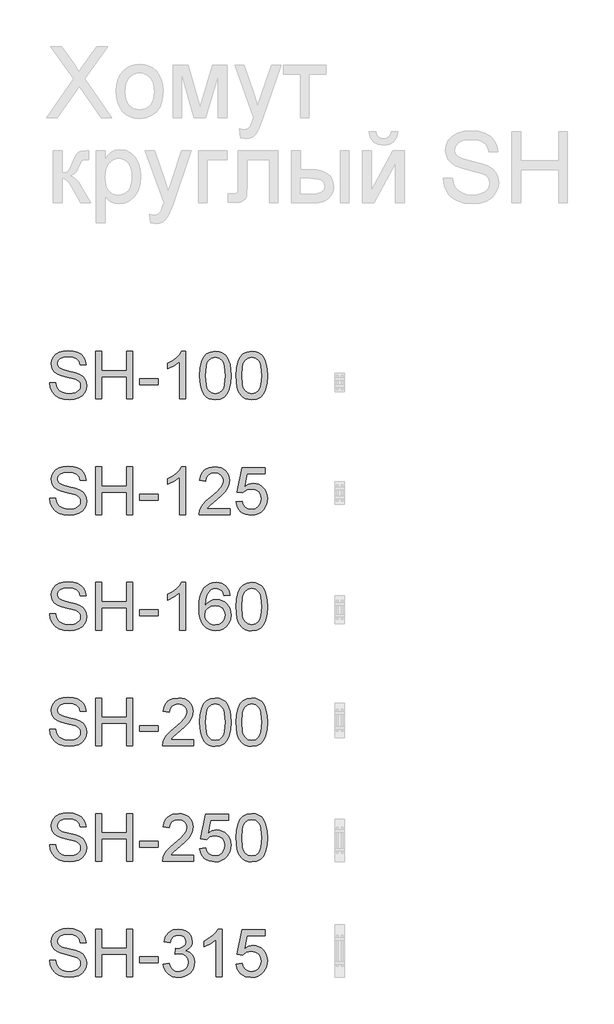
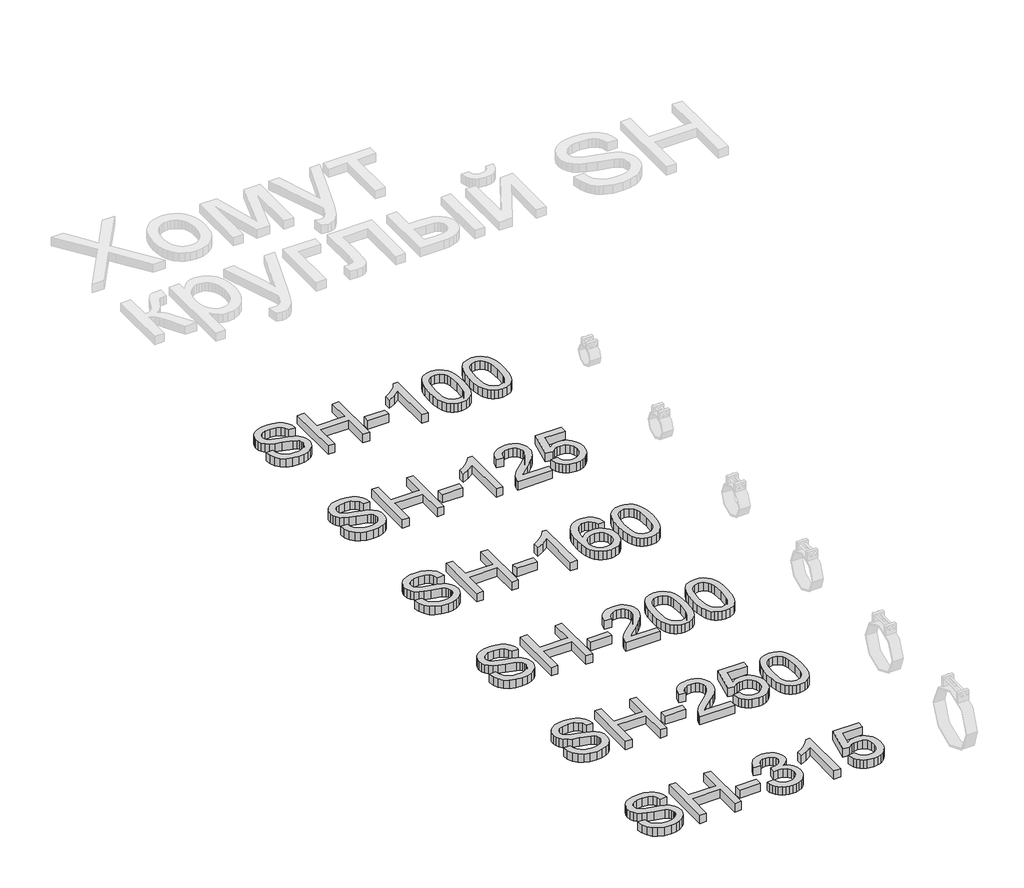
# One storey, part 4 of 31: 1 proxy.
"""IFC4 building model written with IfcOpenShell, lengths in millimetres."""

from ifc_helpers import new_model, si_unit, origin, origin_with_axes, place, context, project, spatial, polyline, outline, extrude, element, save

model = new_model("IFC4")

# Units and contexts
model_context = context("Model", 3, world=origin())
ifc_project = project(units=[si_unit("LENGTHUNIT", "METRE", prefix="MILLI")], contexts=[model_context])

# Site, building, storey
site = spatial("IfcSite", under=ifc_project)
building = spatial("IfcBuilding", under=site)
storey = spatial("IfcBuildingStorey", under=building, Name="Этаж 01", Elevation=0.0)

# Proxy
placement = place(None, origin())
element("IfcBuildingElementProxy", 1, Name="300 мм Arial", ObjectType="300 мм Arial", at=placement, inside=storey, context=model_context, shape_type="SweptSolid", body=[
    extrude(outline(polyline([(10389.7433415, -45061.6957444), (10427.4144578, -45061.6957444), (10431.7370713, -45082.6006388), (10439.5545637, -45099.4036489), (10451.7498518, -45112.7393712), (10469.2058525, -45123.2424022), (10490.5430082, -45130.0574161), (10514.3817615, -45132.3290875), (10535.3694293, -45130.6092391), (10553.745135, -45125.4496941), (10568.6351587, -45117.2827139), (10579.1657809, -45106.5405596), (10585.4289718, -45094.2073157), (10587.5167022, -45081.2670665), (10585.9532037, -45068.6579111), (10581.2627082, -45057.759407), (10571.7345646, -45048.4611896), (10555.6581214, -45040.6528943), (10500.8069159, -45026.2687082), (10464.8004656, -45016.7497616), (10441.7618557, -45007.6906675), (10423.009071, -44995.0171328), (10409.7193339, -44979.6580595), (10401.8006739, -44961.9445414), (10399.1611206, -44942.2076723), (10402.4260733, -44920.1439497), (10412.2209314, -44899.5701491), (10428.2881776, -44882.1325425), (10450.3702943, -44869.4774019), (10476.8761921, -44861.7794712), (10506.2147812, -44859.2134942), (10537.9997856, -44861.8990328), (10565.8116644, -44869.9556485), (10588.6571363, -44883.2177944), (10605.5429199, -44901.5199237), (10616.2298919, -44923.7216021), (10620.4789289, -44948.6823955), (10582.8078126, -44948.6823955), (10575.8916311, -44926.2048056), (10561.4706569, -44909.9812096), (10538.9378847, -44900.1587603), (10507.6863092, -44896.8846105), (10475.6989697, -44900.1219721), (10453.7548087, -44909.8340568), (10441.0628799, -44924.1262723), (10436.8322369, -44941.1040264), (10439.8304752, -44955.5801829), (10448.82519, -44967.223648), (10470.0887693, -44977.6347085), (10510.3350596, -44988.2664981), (10551.8689368, -44998.3648589), (10576.9952771, -45007.1756327), (10598.4703886, -45020.8424488), (10613.4523828, -45037.7098383), (10622.2539595, -45057.5938601), (10625.1878185, -45080.3105733), (10621.8125012, -45103.5331243), (10611.6865492, -45125.3761177), (10595.2238299, -45144.1748877), (10572.8382105, -45158.2647681), (10545.9184455, -45167.0663449), (10515.8532895, -45170.0002038), (10478.9455283, -45166.8364186), (10448.5676726, -45157.3450631), (10424.3702343, -45141.4893491), (10406.0037257, -45119.2324884), (10394.2131078, -45092.1195854), (10389.7433415, -45061.6957444)])), origin_with_axes(), (0.0, 0.0, 1.0), 50.0),
    extrude(outline(polyline([(10681.6944929, -45165.2913142), (10681.6944929, -44863.9223838), (10719.3656092, -44863.9223838), (10719.3656092, -44986.3535118), (10879.4678535, -44986.3535118), (10879.4678535, -44863.9223838), (10917.1389698, -44863.9223838), (10917.1389698, -45165.2913142), (10879.4678535, -45165.2913142), (10879.4678535, -45024.0246281), (10719.3656092, -45024.0246281), (10719.3656092, -45165.2913142), (10681.6944929, -45165.2913142)])), origin_with_axes(), (0.0, 0.0, 1.0), 50.0),
    extrude(outline(polyline([(10959.5189757, -45075.822413), (10959.5189757, -45038.1512967), (11077.2412141, -45038.1512967), (11077.2412141, -45075.822413), (10959.5189757, -45075.822413)])), origin_with_axes(), (0.0, 0.0, 1.0), 50.0),
    extrude(outline(polyline([(11251.470127, -45165.2913142), (11213.7990107, -45165.2913142), (11213.7990107, -44930.4354485), (11178.1144572, -44955.8560944), (11138.4567781, -44974.8755935), (11138.4567781, -44939.2646164), (11168.0436876, -44923.1697791), (11193.6758656, -44904.0215212), (11213.8817842, -44883.6592528), (11227.1899154, -44863.9223838), (11251.470127, -44863.9223838), (11251.470127, -45165.2913142)])), origin_with_axes(), (0.0, 0.0, 1.0), 50.0),
    extrude(outline(polyline([(11340.9390283, -45017.0348702), (11343.7073403, -44968.7963435), (11352.0122763, -44930.3250839), (11365.7710629, -44901.03248), (11384.9009267, -44880.3299208), (11409.5398233, -44868.024268), (11439.8257086, -44863.9223838), (11463.0390625, -44866.3504049), (11483.8243952, -44873.6344684), (11501.2068195, -44885.4894657), (11514.211448, -44901.6302883), (11524.0338973, -44921.9189803), (11531.8697838, -44946.2175861), (11537.0017376, -44977.0736884), (11538.7123889, -45017.0348702), (11535.971668, -45064.9974853), (11527.7495054, -45103.3767744), (11514.0734923, -45132.6969695), (11494.9712197, -45153.4823022), (11470.2771407, -45165.8707284), (11439.8257086, -45170.0002038), (11419.077164, -45168.206779), (11400.6830643, -45162.8265049), (11384.6434093, -45153.8593812), (11370.9581991, -45141.3054081), (11357.8248119, -45118.6116876), (11348.443821, -45090.3353577), (11342.8152264, -45056.4764186), (11340.9390283, -45017.0348702)]), holes=[polyline([(11378.6101446, -45016.9612938), (11383.0247285, -45076.2178861), (11388.5429584, -45096.4858848), (11396.2684803, -45110.5136851), (11415.9869553, -45126.8752369), (11439.8257086, -45132.3290875), (11463.6644619, -45126.8568428), (11483.3829368, -45110.4401087), (11491.1084587, -45096.3893158), (11496.6266886, -45076.1259156), (11501.0412726, -45016.9612938), (11496.7738414, -44959.0382736), (11491.4395525, -44938.8369536), (11483.971548, -44924.4757602), (11464.2898613, -44907.3140651), (11439.3842502, -44901.5935001), (11415.8030143, -44906.6334834), (11396.8570915, -44921.7534334), (11388.8740522, -44937.3884182), (11383.1718813, -44958.4680565), (11378.6101446, -45016.9612938)])]), origin_with_axes(), (0.0, 0.0, 1.0), 50.0),
    extrude(outline(polyline([(11571.6746156, -45017.0348702), (11574.4429277, -44968.7963435), (11582.7478637, -44930.3250839), (11596.5066503, -44901.03248), (11615.6365141, -44880.3299208), (11640.2754107, -44868.024268), (11670.561296, -44863.9223838), (11693.7746498, -44866.3504049), (11714.5599826, -44873.6344684), (11731.9424068, -44885.4894657), (11744.9470354, -44901.6302883), (11754.7694846, -44921.9189803), (11762.6053711, -44946.2175861), (11767.737325, -44977.0736884), (11769.4479763, -45017.0348702), (11766.7072554, -45064.9974853), (11758.4850928, -45103.3767744), (11744.8090796, -45132.6969695), (11725.706807, -45153.4823022), (11701.0127281, -45165.8707284), (11670.561296, -45170.0002038), (11649.8127514, -45168.206779), (11631.4186517, -45162.8265049), (11615.3789967, -45153.8593812), (11601.6937865, -45141.3054081), (11588.5603992, -45118.6116876), (11579.1794083, -45090.3353577), (11573.5508138, -45056.4764186), (11571.6746156, -45017.0348702)]), holes=[polyline([(11609.345732, -45016.9612938), (11613.7603159, -45076.2178861), (11619.2785458, -45096.4858848), (11627.0040677, -45110.5136851), (11646.7225427, -45126.8752369), (11670.561296, -45132.3290875), (11694.4000492, -45126.8568428), (11714.1185242, -45110.4401087), (11721.8440461, -45096.3893158), (11727.362276, -45076.1259156), (11731.7768599, -45016.9612938), (11727.5094288, -44959.0382736), (11722.1751399, -44938.8369536), (11714.7071354, -44924.4757602), (11695.0254486, -44907.3140651), (11670.1198376, -44901.5935001), (11646.5386017, -44906.6334834), (11627.5926789, -44921.7534334), (11619.6096396, -44937.3884182), (11613.9074687, -44958.4680565), (11609.345732, -45016.9612938)])]), origin_with_axes(), (0.0, 0.0, 1.0), 50.0),
    extrude(outline(polyline([(10389.7433415, -45793.5446515), (10427.4144578, -45793.5446515), (10431.7370713, -45814.4495458), (10439.5545637, -45831.252556), (10451.7498518, -45844.5882783), (10469.2058525, -45855.0913092), (10490.5430082, -45861.9063232), (10514.3817615, -45864.1779945), (10535.3694293, -45862.4581462), (10553.745135, -45857.2986012), (10568.6351587, -45849.1316209), (10579.1657809, -45838.3894667), (10585.4289718, -45826.0562228), (10587.5167022, -45813.1159736), (10585.9532037, -45800.5068182), (10581.2627082, -45789.6083141), (10571.7345646, -45780.3100967), (10555.6581214, -45772.5018013), (10500.8069159, -45758.1176153), (10464.8004656, -45748.5986687), (10441.7618557, -45739.5395746), (10423.009071, -45726.8660398), (10409.7193339, -45711.5069665), (10401.8006739, -45693.7934485), (10399.1611206, -45674.0565794), (10402.4260733, -45651.9928568), (10412.2209314, -45631.4190562), (10428.2881776, -45613.9814496), (10450.3702943, -45601.326309), (10476.8761921, -45593.6283782), (10506.2147812, -45591.0624013), (10537.9997856, -45593.7479399), (10565.8116644, -45601.8045556), (10588.6571363, -45615.0667015), (10605.5429199, -45633.3688308), (10616.2298919, -45655.5705092), (10620.4789289, -45680.5313025), (10582.8078126, -45680.5313025), (10575.8916311, -45658.0537126), (10561.4706569, -45641.8301166), (10538.9378847, -45632.0076674), (10507.6863092, -45628.7335176), (10475.6989697, -45631.9708792), (10453.7548087, -45641.6829638), (10441.0628799, -45655.9751794), (10436.8322369, -45672.9529334), (10439.8304752, -45687.4290899), (10448.82519, -45699.0725551), (10470.0887693, -45709.4836156), (10510.3350596, -45720.1154052), (10551.8689368, -45730.213766), (10576.9952771, -45739.0245398), (10598.4703886, -45752.6913559), (10613.4523828, -45769.5587454), (10622.2539595, -45789.4427672), (10625.1878185, -45812.1594804), (10621.8125012, -45835.3820314), (10611.6865492, -45857.2250248), (10595.2238299, -45876.0237948), (10572.8382105, -45890.1136752), (10545.9184455, -45898.9152519), (10515.8532895, -45901.8491108), (10478.9455283, -45898.6853257), (10448.5676726, -45889.1939702), (10424.3702343, -45873.3382562), (10406.0037257, -45851.0813955), (10394.2131078, -45823.9684925), (10389.7433415, -45793.5446515)])), origin_with_axes(), (0.0, 0.0, 1.0), 50.0),
    extrude(outline(polyline([(10681.6944929, -45897.1402213), (10681.6944929, -45595.7712908), (10719.3656092, -45595.7712908), (10719.3656092, -45718.2024188), (10879.4678535, -45718.2024188), (10879.4678535, -45595.7712908), (10917.1389698, -45595.7712908), (10917.1389698, -45897.1402213), (10879.4678535, -45897.1402213), (10879.4678535, -45755.8735351), (10719.3656092, -45755.8735351), (10719.3656092, -45897.1402213), (10681.6944929, -45897.1402213)])), origin_with_axes(), (0.0, 0.0, 1.0), 50.0),
    extrude(outline(polyline([(10959.5189757, -45807.6713201), (10959.5189757, -45770.0002038), (11077.2412141, -45770.0002038), (11077.2412141, -45807.6713201), (10959.5189757, -45807.6713201)])), origin_with_axes(), (0.0, 0.0, 1.0), 50.0),
    extrude(outline(polyline([(11251.470127, -45897.1402213), (11213.7990107, -45897.1402213), (11213.7990107, -45662.2843556), (11178.1144572, -45687.7050014), (11138.4567781, -45706.7245006), (11138.4567781, -45671.1135235), (11168.0436876, -45655.0186862), (11193.6758656, -45635.8704283), (11213.8817842, -45615.5081599), (11227.1899154, -45595.7712908), (11251.470127, -45595.7712908), (11251.470127, -45897.1402213)])), origin_with_axes(), (0.0, 0.0, 1.0), 50.0),
    extrude(outline(polyline([(11534.0034993, -45859.469105), (11534.0034993, -45897.1402213), (11336.2301387, -45897.1402213), (11340.2768407, -45871.1677524), (11349.5658611, -45850.8698634), (11363.1591008, -45831.1789796), (11382.8223934, -45810.5683908), (11410.3215726, -45787.5113867), (11450.972533, -45751.4037689), (11475.3631093, -45724.7507184), (11487.5583974, -45703.119257), (11491.6234935, -45682.0764069), (11487.7883237, -45663.2132576), (11476.2828143, -45647.5322876), (11458.5968874, -45636.9648773), (11436.220465, -45633.4424072), (11412.7220026, -45636.8821038), (11394.4658586, -45647.2011938), (11382.6844377, -45663.5903367), (11378.6101446, -45685.2401921), (11340.9390283, -45680.5313025), (11350.0716988, -45644.0925909), (11358.6180574, -45629.5566536), (11369.8177649, -45617.4763286), (11383.4133039, -45607.9803746), (11399.147157, -45601.1975503), (11437.0298054, -45595.7712908), (11457.2196292, -45597.279607), (11475.1883654, -45601.8045556), (11490.936014, -45609.3461365), (11504.4625751, -45619.9043497), (11515.3265903, -45632.6974461), (11523.0866011, -45646.9436764), (11527.7426076, -45662.6430405), (11529.2946098, -45679.7955385), (11527.6207467, -45697.8125593), (11522.5991575, -45715.5168803), (11513.6872162, -45733.5247039), (11500.3422968, -45752.4522326), (11479.0695204, -45775.0493841), (11446.3740081, -45804.0660765), (11403.0375091, -45840.302453), (11386.0413609, -45859.469105), (11534.0034993, -45859.469105)])), origin_with_axes(), (0.0, 0.0, 1.0), 50.0),
    extrude(outline(polyline([(11571.6746156, -45817.0890991), (11609.345732, -45812.3802096), (11616.2619135, -45834.9957553), (11628.3284429, -45851.1917601), (11645.490138, -45860.9314359), (11667.6918164, -45864.1779945), (11694.6943548, -45859.662243), (11714.9278646, -45846.1149886), (11727.5646111, -45825.0997296), (11731.7768599, -45798.1799646), (11727.8313255, -45772.8328951), (11715.9947224, -45753.445514), (11696.1750799, -45741.1398612), (11668.2804276, -45737.037977), (11650.0058895, -45738.6750519), (11635.2078362, -45743.5862765), (11614.0546215, -45760.5824247), (11576.3835052, -45755.8735351), (11609.345732, -45600.4801804), (11755.3213076, -45600.4801804), (11755.3213076, -45638.1512967), (11639.8063612, -45638.1512967), (11623.6931298, -45721.1454748), (11650.6036977, -45704.8115142), (11678.8018526, -45699.3668607), (11697.1476679, -45701.0545193), (11713.9989625, -45706.1174953), (11729.3557366, -45714.5557886), (11743.21799, -45726.3693991), (11754.693609, -45740.8363586), (11762.8904797, -45757.2346985), (11767.8086021, -45775.5644189), (11769.4479763, -45795.8255198), (11763.5434702, -45833.4966361), (11756.1628377, -45850.2904492), (11745.8299522, -45865.7230989), (11730.1765733, -45881.5282291), (11711.9112322, -45892.8176079), (11691.033929, -45899.5912351), (11667.5446636, -45901.8491108), (11630.5449319, -45896.0457724), (11614.8662611, -45888.7915993), (11601.0683871, -45878.6357569), (11589.5881695, -45866.0840831), (11580.8624685, -45851.6424155), (11571.6746156, -45817.0890991)])), origin_with_axes(), (0.0, 0.0, 1.0), 50.0),
    extrude(outline(polyline([(10389.7433415, -46525.3935585), (10427.4144578, -46525.3935585), (10431.7370713, -46546.2984529), (10439.5545637, -46563.101463), (10451.7498518, -46576.4371854), (10469.2058525, -46586.9402163), (10490.5430082, -46593.7552303), (10514.3817615, -46596.0269016), (10535.3694293, -46594.3070533), (10553.745135, -46589.1475083), (10568.6351587, -46580.980528), (10579.1657809, -46570.2383737), (10585.4289718, -46557.9051298), (10587.5167022, -46544.9648807), (10585.9532037, -46532.3557253), (10581.2627082, -46521.4572212), (10571.7345646, -46512.1590037), (10555.6581214, -46504.3507084), (10500.8069159, -46489.9665224), (10464.8004656, -46480.4475758), (10441.7618557, -46471.3884816), (10423.009071, -46458.7149469), (10409.7193339, -46443.3558736), (10401.8006739, -46425.6423555), (10399.1611206, -46405.9054865), (10402.4260733, -46383.8417638), (10412.2209314, -46363.2679633), (10428.2881776, -46345.8303567), (10450.3702943, -46333.175216), (10476.8761921, -46325.4772853), (10506.2147812, -46322.9113084), (10537.9997856, -46325.5968469), (10565.8116644, -46333.6534626), (10588.6571363, -46346.9156086), (10605.5429199, -46365.2177378), (10616.2298919, -46387.4194162), (10620.4789289, -46412.3802096), (10582.8078126, -46412.3802096), (10575.8916311, -46389.9026197), (10561.4706569, -46373.6790237), (10538.9378847, -46363.8565744), (10507.6863092, -46360.5824247), (10475.6989697, -46363.8197862), (10453.7548087, -46373.5318709), (10441.0628799, -46387.8240864), (10436.8322369, -46404.8018405), (10439.8304752, -46419.277997), (10448.82519, -46430.9214622), (10470.0887693, -46441.3325226), (10510.3350596, -46451.9643123), (10551.8689368, -46462.0626731), (10576.9952771, -46470.8734468), (10598.4703886, -46484.540263), (10613.4523828, -46501.4076524), (10622.2539595, -46521.2916743), (10625.1878185, -46544.0083875), (10621.8125012, -46567.2309384), (10611.6865492, -46589.0739319), (10595.2238299, -46607.8727018), (10572.8382105, -46621.9625823), (10545.9184455, -46630.764159), (10515.8532895, -46633.6980179), (10478.9455283, -46630.5342327), (10448.5676726, -46621.0428773), (10424.3702343, -46605.1871633), (10406.0037257, -46582.9303026), (10394.2131078, -46555.8173995), (10389.7433415, -46525.3935585)])), origin_with_axes(), (0.0, 0.0, 1.0), 50.0),
    extrude(outline(polyline([(10681.6944929, -46628.9891284), (10681.6944929, -46327.6201979), (10719.3656092, -46327.6201979), (10719.3656092, -46450.0513259), (10879.4678535, -46450.0513259), (10879.4678535, -46327.6201979), (10917.1389698, -46327.6201979), (10917.1389698, -46628.9891284), (10879.4678535, -46628.9891284), (10879.4678535, -46487.7224422), (10719.3656092, -46487.7224422), (10719.3656092, -46628.9891284), (10681.6944929, -46628.9891284)])), origin_with_axes(), (0.0, 0.0, 1.0), 50.0),
    extrude(outline(polyline([(10959.5189757, -46539.5202271), (10959.5189757, -46501.8491108), (11077.2412141, -46501.8491108), (11077.2412141, -46539.5202271), (10959.5189757, -46539.5202271)])), origin_with_axes(), (0.0, 0.0, 1.0), 50.0),
    extrude(outline(polyline([(11251.470127, -46628.9891284), (11213.7990107, -46628.9891284), (11213.7990107, -46394.1332626), (11178.1144572, -46419.5539085), (11138.4567781, -46438.5734077), (11138.4567781, -46402.9624305), (11168.0436876, -46386.8675932), (11193.6758656, -46367.7193354), (11213.8817842, -46347.357067), (11227.1899154, -46327.6201979), (11251.470127, -46327.6201979), (11251.470127, -46628.9891284)])), origin_with_axes(), (0.0, 0.0, 1.0), 50.0),
    extrude(outline(polyline([(11534.0034993, -46407.6713201), (11496.332383, -46412.3802096), (11490.2623301, -46393.7101984), (11482.0585616, -46380.9630872), (11464.9704429, -46369.2092575), (11444.3138689, -46365.2913142), (11426.8026859, -46367.5721826), (11410.3215726, -46374.4147877), (11396.1673128, -46388.8265649), (11384.6066211, -46408.6646015), (11376.7983258, -46436.7248006), (11373.901255, -46475.8030656), (11389.012008, -46458.172321), (11407.1209992, -46445.7471066), (11427.2165532, -46438.3802696), (11448.2869945, -46435.9246573), (11466.3867886, -46437.6031189), (11483.0886312, -46442.6385037), (11498.3925222, -46451.0308117), (11512.2984616, -46462.7800429), (11523.8545548, -46477.1872216), (11532.1089071, -46493.5533718), (11537.0615184, -46511.8784937), (11538.7123889, -46532.1625872), (11535.603786, -46559.1375345), (11526.2779774, -46584.1443132), (11511.5075153, -46605.3527102), (11492.0649519, -46620.9325127), (11468.8332039, -46630.5066416), (11442.6951881, -46633.6980179), (11420.2382916, -46631.5826964), (11399.9564973, -46625.236732), (11381.8498054, -46614.6601247), (11365.9182157, -46599.8528743), (11352.9296821, -46580.1895817), (11343.652158, -46555.0448473), (11338.0856435, -46524.4186712), (11336.2301387, -46488.3110534), (11338.2902779, -46447.8302384), (11344.4706954, -46413.2815205), (11354.7713913, -46384.6648998), (11369.1923655, -46361.9803763), (11384.8227518, -46346.9477982), (11402.9455386, -46336.2102425), (11423.5607259, -46329.7677091), (11446.6683137, -46327.6201979), (11479.722511, -46332.9360927), (11506.1916205, -46348.8837772), (11524.7328731, -46374.2124526), (11534.0034993, -46407.6713201)]), holes=[polyline([(11373.901255, -46531.573976), (11376.0809559, -46548.2666216), (11382.6200583, -46564.205109), (11392.7736014, -46577.9087133), (11405.796624, -46587.8967095), (11421.5143823, -46593.9943536), (11439.7521322, -46596.0269016), (11464.611758, -46591.8146528), (11484.155489, -46579.1779062), (11496.8198267, -46559.3122785), (11501.0412726, -46533.413386), (11496.875009, -46508.5537602), (11484.3762182, -46489.5986404), (11464.5013934, -46477.5964903), (11438.2070278, -46473.5957736), (11413.3841902, -46477.5964903), (11392.6264486, -46489.5986404), (11378.5825534, -46508.0939077), (11373.901255, -46531.573976)])]), origin_with_axes(), (0.0, 0.0, 1.0), 50.0),
    extrude(outline(polyline([(11571.6746156, -46480.7326843), (11574.4429277, -46432.4941577), (11582.7478637, -46394.022898), (11596.5066503, -46364.7302942), (11615.6365141, -46344.0277349), (11640.2754107, -46331.7220822), (11670.561296, -46327.6201979), (11693.7746498, -46330.0482191), (11714.5599826, -46337.3322826), (11731.9424068, -46349.1872799), (11744.9470354, -46365.3281024), (11754.7694846, -46385.6167945), (11762.6053711, -46409.9154002), (11767.737325, -46440.7715026), (11769.4479763, -46480.7326843), (11766.7072554, -46528.6952994), (11758.4850928, -46567.0745886), (11744.8090796, -46596.3947836), (11725.706807, -46617.1801163), (11701.0127281, -46629.5685425), (11670.561296, -46633.6980179), (11649.8127514, -46631.9045932), (11631.4186517, -46626.524319), (11615.3789967, -46617.5571954), (11601.6937865, -46605.0032223), (11588.5603992, -46582.3095017), (11579.1794083, -46554.0331718), (11573.5508138, -46520.1742327), (11571.6746156, -46480.7326843)]), holes=[polyline([(11609.345732, -46480.6591079), (11613.7603159, -46539.9157003), (11619.2785458, -46560.183699), (11627.0040677, -46574.2114993), (11646.7225427, -46590.573051), (11670.561296, -46596.0269016), (11694.4000492, -46590.5546569), (11714.1185242, -46574.1379229), (11721.8440461, -46560.0871299), (11727.362276, -46539.8237298), (11731.7768599, -46480.6591079), (11727.5094288, -46422.7360878), (11722.1751399, -46402.5347677), (11714.7071354, -46388.1735743), (11695.0254486, -46371.0118792), (11670.1198376, -46365.2913142), (11646.5386017, -46370.3312976), (11627.5926789, -46385.4512476), (11619.6096396, -46401.0862324), (11613.9074687, -46422.1658707), (11609.345732, -46480.6591079)])]), origin_with_axes(), (0.0, 0.0, 1.0), 50.0),
    extrude(outline(polyline([(10389.7433415, -47257.2424656), (10427.4144578, -47257.2424656), (10431.7370713, -47278.14736), (10439.5545637, -47294.9503701), (10451.7498518, -47308.2860924), (10469.2058525, -47318.7891234), (10490.5430082, -47325.6041373), (10514.3817615, -47327.8758087), (10535.3694293, -47326.1559603), (10553.745135, -47320.9964154), (10568.6351587, -47312.8294351), (10579.1657809, -47302.0872808), (10585.4289718, -47289.7540369), (10587.5167022, -47276.8137877), (10585.9532037, -47264.2046324), (10581.2627082, -47253.3061282), (10571.7345646, -47244.0079108), (10555.6581214, -47236.1996155), (10500.8069159, -47221.8154295), (10464.8004656, -47212.2964828), (10441.7618557, -47203.2373887), (10423.009071, -47190.563854), (10409.7193339, -47175.2047807), (10401.8006739, -47157.4912626), (10399.1611206, -47137.7543936), (10402.4260733, -47115.6906709), (10412.2209314, -47095.1168703), (10428.2881776, -47077.6792638), (10450.3702943, -47065.0241231), (10476.8761921, -47057.3261924), (10506.2147812, -47054.7602155), (10537.9997856, -47057.445754), (10565.8116644, -47065.5023697), (10588.6571363, -47078.7645156), (10605.5429199, -47097.0666449), (10616.2298919, -47119.2683233), (10620.4789289, -47144.2291167), (10582.8078126, -47144.2291167), (10575.8916311, -47121.7515268), (10561.4706569, -47105.5279308), (10538.9378847, -47095.7054815), (10507.6863092, -47092.4313318), (10475.6989697, -47095.6686933), (10453.7548087, -47105.380778), (10441.0628799, -47119.6729935), (10436.8322369, -47136.6507476), (10439.8304752, -47151.1269041), (10448.82519, -47162.7703692), (10470.0887693, -47173.1814297), (10510.3350596, -47183.8132194), (10551.8689368, -47193.9115801), (10576.9952771, -47202.7223539), (10598.4703886, -47216.38917), (10613.4523828, -47233.2565595), (10622.2539595, -47253.1405813), (10625.1878185, -47275.8572946), (10621.8125012, -47299.0798455), (10611.6865492, -47320.922839), (10595.2238299, -47339.7216089), (10572.8382105, -47353.8114893), (10545.9184455, -47362.6130661), (10515.8532895, -47365.546925), (10478.9455283, -47362.3831398), (10448.5676726, -47352.8917843), (10424.3702343, -47337.0360703), (10406.0037257, -47314.7792096), (10394.2131078, -47287.6663066), (10389.7433415, -47257.2424656)])), origin_with_axes(), (0.0, 0.0, 1.0), 50.0),
    extrude(outline(polyline([(10681.6944929, -47360.8380354), (10681.6944929, -47059.469105), (10719.3656092, -47059.469105), (10719.3656092, -47181.900233), (10879.4678535, -47181.900233), (10879.4678535, -47059.469105), (10917.1389698, -47059.469105), (10917.1389698, -47360.8380354), (10879.4678535, -47360.8380354), (10879.4678535, -47219.5713493), (10719.3656092, -47219.5713493), (10719.3656092, -47360.8380354), (10681.6944929, -47360.8380354)])), origin_with_axes(), (0.0, 0.0, 1.0), 50.0),
    extrude(outline(polyline([(10959.5189757, -47271.3691342), (10959.5189757, -47233.6980179), (11077.2412141, -47233.6980179), (11077.2412141, -47271.3691342), (10959.5189757, -47271.3691342)])), origin_with_axes(), (0.0, 0.0, 1.0), 50.0),
    extrude(outline(polyline([(11303.267912, -47323.1669191), (11303.267912, -47360.8380354), (11105.4945514, -47360.8380354), (11109.5412533, -47334.8655666), (11118.8302737, -47314.5676775), (11132.4235134, -47294.8767937), (11152.086806, -47274.2662049), (11179.5859852, -47251.2092009), (11220.2369457, -47215.101583), (11244.6275219, -47188.4485325), (11256.8228101, -47166.8170712), (11260.8879061, -47145.7742211), (11257.0527363, -47126.9110718), (11245.5472269, -47111.2301017), (11227.8613, -47100.6626914), (11205.4848776, -47097.1402213), (11181.9864152, -47100.579918), (11163.7302712, -47110.8990079), (11151.9488503, -47127.2881508), (11147.8745572, -47148.9380062), (11110.2034409, -47144.2291167), (11119.3361114, -47107.7904051), (11127.88247, -47093.2544677), (11139.0821775, -47081.1741427), (11152.6777165, -47071.6781887), (11168.4115696, -47064.8953644), (11206.294218, -47059.469105), (11226.4840418, -47060.9774212), (11244.452778, -47065.5023697), (11260.2004266, -47073.0439506), (11273.7269878, -47083.6021639), (11284.5910029, -47096.3952603), (11292.3510138, -47110.6414905), (11297.0070203, -47126.3408547), (11298.5590224, -47143.4933527), (11296.8851593, -47161.5103734), (11291.8635701, -47179.2146944), (11282.9516288, -47197.2225181), (11269.6067094, -47216.1500467), (11248.333933, -47238.7471983), (11215.6384207, -47267.7638907), (11172.3019217, -47304.0002672), (11155.3057735, -47323.1669191), (11303.267912, -47323.1669191)])), origin_with_axes(), (0.0, 0.0, 1.0), 50.0),
    extrude(outline(polyline([(11340.9390283, -47212.5815914), (11343.7073403, -47164.3430648), (11352.0122763, -47125.8718051), (11365.7710629, -47096.5792013), (11384.9009267, -47075.876642), (11409.5398233, -47063.5709892), (11439.8257086, -47059.469105), (11463.0390625, -47061.8971262), (11483.8243952, -47069.1811897), (11501.2068195, -47081.036187), (11514.211448, -47097.1770095), (11524.0338973, -47117.4657015), (11531.8697838, -47141.7643073), (11537.0017376, -47172.6204097), (11538.7123889, -47212.5815914), (11535.971668, -47260.5442065), (11527.7495054, -47298.9234956), (11514.0734923, -47328.2436907), (11494.9712197, -47349.0290234), (11470.2771407, -47361.4174496), (11439.8257086, -47365.546925), (11419.077164, -47363.7535002), (11400.6830643, -47358.3732261), (11384.6434093, -47349.4061024), (11370.9581991, -47336.8521294), (11357.8248119, -47314.1584088), (11348.443821, -47285.8820789), (11342.8152264, -47252.0231398), (11340.9390283, -47212.5815914)]), holes=[polyline([(11378.6101446, -47212.508015), (11383.0247285, -47271.7646074), (11388.5429584, -47292.032606), (11396.2684803, -47306.0604064), (11415.9869553, -47322.4219581), (11439.8257086, -47327.8758087), (11463.6644619, -47322.403564), (11483.3829368, -47305.98683), (11491.1084587, -47291.936037), (11496.6266886, -47271.6726369), (11501.0412726, -47212.508015), (11496.7738414, -47154.5849948), (11491.4395525, -47134.3836748), (11483.971548, -47120.0224814), (11464.2898613, -47102.8607863), (11439.3842502, -47097.1402213), (11415.8030143, -47102.1802046), (11396.8570915, -47117.3001546), (11388.8740522, -47132.9351394), (11383.1718813, -47154.0147777), (11378.6101446, -47212.508015)])]), origin_with_axes(), (0.0, 0.0, 1.0), 50.0),
    extrude(outline(polyline([(11571.6746156, -47212.5815914), (11574.4429277, -47164.3430648), (11582.7478637, -47125.8718051), (11596.5066503, -47096.5792013), (11615.6365141, -47075.876642), (11640.2754107, -47063.5709892), (11670.561296, -47059.469105), (11693.7746498, -47061.8971262), (11714.5599826, -47069.1811897), (11731.9424068, -47081.036187), (11744.9470354, -47097.1770095), (11754.7694846, -47117.4657015), (11762.6053711, -47141.7643073), (11767.737325, -47172.6204097), (11769.4479763, -47212.5815914), (11766.7072554, -47260.5442065), (11758.4850928, -47298.9234956), (11744.8090796, -47328.2436907), (11725.706807, -47349.0290234), (11701.0127281, -47361.4174496), (11670.561296, -47365.546925), (11649.8127514, -47363.7535002), (11631.4186517, -47358.3732261), (11615.3789967, -47349.4061024), (11601.6937865, -47336.8521294), (11588.5603992, -47314.1584088), (11579.1794083, -47285.8820789), (11573.5508138, -47252.0231398), (11571.6746156, -47212.5815914)]), holes=[polyline([(11609.345732, -47212.508015), (11613.7603159, -47271.7646074), (11619.2785458, -47292.032606), (11627.0040677, -47306.0604064), (11646.7225427, -47322.4219581), (11670.561296, -47327.8758087), (11694.4000492, -47322.403564), (11714.1185242, -47305.98683), (11721.8440461, -47291.936037), (11727.362276, -47271.6726369), (11731.7768599, -47212.508015), (11727.5094288, -47154.5849948), (11722.1751399, -47134.3836748), (11714.7071354, -47120.0224814), (11695.0254486, -47102.8607863), (11670.1198376, -47097.1402213), (11646.5386017, -47102.1802046), (11627.5926789, -47117.3001546), (11619.6096396, -47132.9351394), (11613.9074687, -47154.0147777), (11609.345732, -47212.508015)])]), origin_with_axes(), (0.0, 0.0, 1.0), 50.0),
    extrude(outline(polyline([(10389.7433415, -47989.0913727), (10427.4144578, -47989.0913727), (10431.7370713, -48009.996267), (10439.5545637, -48026.7992772), (10451.7498518, -48040.1349995), (10469.2058525, -48050.6380305), (10490.5430082, -48057.4530444), (10514.3817615, -48059.7247157), (10535.3694293, -48058.0048674), (10553.745135, -48052.8453224), (10568.6351587, -48044.6783421), (10579.1657809, -48033.9361879), (10585.4289718, -48021.602944), (10587.5167022, -48008.6626948), (10585.9532037, -47996.0535394), (10581.2627082, -47985.1550353), (10571.7345646, -47975.8568179), (10555.6581214, -47968.0485225), (10500.8069159, -47953.6643365), (10464.8004656, -47944.1453899), (10441.7618557, -47935.0862958), (10423.009071, -47922.412761), (10409.7193339, -47907.0536877), (10401.8006739, -47889.3401697), (10399.1611206, -47869.6033006), (10402.4260733, -47847.539578), (10412.2209314, -47826.9657774), (10428.2881776, -47809.5281708), (10450.3702943, -47796.8730302), (10476.8761921, -47789.1750994), (10506.2147812, -47786.6091225), (10537.9997856, -47789.2946611), (10565.8116644, -47797.3512768), (10588.6571363, -47810.6134227), (10605.5429199, -47828.915552), (10616.2298919, -47851.1172304), (10620.4789289, -47876.0780237), (10582.8078126, -47876.0780237), (10575.8916311, -47853.6004338), (10561.4706569, -47837.3768379), (10538.9378847, -47827.5543886), (10507.6863092, -47824.2802388), (10475.6989697, -47827.5176004), (10453.7548087, -47837.2296851), (10441.0628799, -47851.5219006), (10436.8322369, -47868.4996546), (10439.8304752, -47882.9758112), (10448.82519, -47894.6192763), (10470.0887693, -47905.0303368), (10510.3350596, -47915.6621264), (10551.8689368, -47925.7604872), (10576.9952771, -47934.571261), (10598.4703886, -47948.2380771), (10613.4523828, -47965.1054666), (10622.2539595, -47984.9894884), (10625.1878185, -48007.7062016), (10621.8125012, -48030.9287526), (10611.6865492, -48052.771746), (10595.2238299, -48071.570516), (10572.8382105, -48085.6603964), (10545.9184455, -48094.4619731), (10515.8532895, -48097.395832), (10478.9455283, -48094.2320469), (10448.5676726, -48084.7406914), (10424.3702343, -48068.8849774), (10406.0037257, -48046.6281167), (10394.2131078, -48019.5152137), (10389.7433415, -47989.0913727)])), origin_with_axes(), (0.0, 0.0, 1.0), 50.0),
    extrude(outline(polyline([(10681.6944929, -48092.6869425), (10681.6944929, -47791.3180121), (10719.3656092, -47791.3180121), (10719.3656092, -47913.7491401), (10879.4678535, -47913.7491401), (10879.4678535, -47791.3180121), (10917.1389698, -47791.3180121), (10917.1389698, -48092.6869425), (10879.4678535, -48092.6869425), (10879.4678535, -47951.4202564), (10719.3656092, -47951.4202564), (10719.3656092, -48092.6869425), (10681.6944929, -48092.6869425)])), origin_with_axes(), (0.0, 0.0, 1.0), 50.0),
    extrude(outline(polyline([(10959.5189757, -48003.2180413), (10959.5189757, -47965.546925), (11077.2412141, -47965.546925), (11077.2412141, -48003.2180413), (10959.5189757, -48003.2180413)])), origin_with_axes(), (0.0, 0.0, 1.0), 50.0),
    extrude(outline(polyline([(11303.267912, -48055.0158262), (11303.267912, -48092.6869425), (11105.4945514, -48092.6869425), (11109.5412533, -48066.7144736), (11118.8302737, -48046.4165846), (11132.4235134, -48026.7257008), (11152.086806, -48006.115112), (11179.5859852, -47983.0581079), (11220.2369457, -47946.9504901), (11244.6275219, -47920.2974396), (11256.8228101, -47898.6659783), (11260.8879061, -47877.6231281), (11257.0527363, -47858.7599788), (11245.5472269, -47843.0790088), (11227.8613, -47832.5115985), (11205.4848776, -47828.9891284), (11181.9864152, -47832.428825), (11163.7302712, -47842.747915), (11151.9488503, -47859.1370579), (11147.8745572, -47880.7869133), (11110.2034409, -47876.0780237), (11119.3361114, -47839.6393121), (11127.88247, -47825.1033748), (11139.0821775, -47813.0230498), (11152.6777165, -47803.5270958), (11168.4115696, -47796.7442715), (11206.294218, -47791.3180121), (11226.4840418, -47792.8263282), (11244.452778, -47797.3512768), (11260.2004266, -47804.8928577), (11273.7269878, -47815.4510709), (11284.5910029, -47828.2441673), (11292.3510138, -47842.4903976), (11297.0070203, -47858.1897617), (11298.5590224, -47875.3422598), (11296.8851593, -47893.3592805), (11291.8635701, -47911.0636015), (11282.9516288, -47929.0714252), (11269.6067094, -47947.9989538), (11248.333933, -47970.5961054), (11215.6384207, -47999.6127977), (11172.3019217, -48035.8491743), (11155.3057735, -48055.0158262), (11303.267912, -48055.0158262)])), origin_with_axes(), (0.0, 0.0, 1.0), 50.0),
    extrude(outline(polyline([(11340.9390283, -48012.6358204), (11378.6101446, -48007.9269308), (11385.5263261, -48030.5424765), (11397.5928555, -48046.7384813), (11414.7545506, -48056.4781571), (11436.956229, -48059.7247157), (11463.9587675, -48055.2089643), (11484.1922772, -48041.6617098), (11496.8290237, -48020.6464508), (11501.0412726, -47993.7266858), (11497.0957382, -47968.3796163), (11485.259135, -47948.9922352), (11465.4394925, -47936.6865825), (11437.5448402, -47932.5846982), (11419.2703021, -47934.2217731), (11404.4722488, -47939.1329977), (11383.3190341, -47956.1291459), (11345.6479178, -47951.4202564), (11378.6101446, -47796.0269016), (11524.5857203, -47796.0269016), (11524.5857203, -47833.6980179), (11409.0707738, -47833.6980179), (11392.9575424, -47916.692196), (11419.8681103, -47900.3582354), (11448.0662653, -47894.9135819), (11466.4120805, -47896.6012406), (11483.2633752, -47901.6642165), (11498.6201492, -47910.1025098), (11512.4824026, -47921.9161203), (11523.9580216, -47936.3830798), (11532.1548923, -47952.7814197), (11537.0730147, -47971.1111402), (11538.7123889, -47991.372241), (11532.8078829, -48029.0433573), (11525.4272503, -48045.8371704), (11515.0943648, -48061.2698201), (11499.4409859, -48077.0749503), (11481.1756448, -48088.3643291), (11460.2983416, -48095.1379563), (11436.8090762, -48097.395832), (11399.8093446, -48091.5924936), (11384.1306738, -48084.3383205), (11370.3327997, -48074.1824782), (11358.8525822, -48061.6308043), (11350.1268811, -48047.1891368), (11340.9390283, -48012.6358204)])), origin_with_axes(), (0.0, 0.0, 1.0), 50.0),
    extrude(outline(polyline([(11571.6746156, -47944.4304985), (11574.4429277, -47896.1919718), (11582.7478637, -47857.7207122), (11596.5066503, -47828.4281083), (11615.6365141, -47807.725549), (11640.2754107, -47795.4198963), (11670.561296, -47791.3180121), (11693.7746498, -47793.7460332), (11714.5599826, -47801.0300967), (11731.9424068, -47812.885094), (11744.9470354, -47829.0259166), (11754.7694846, -47849.3146086), (11762.6053711, -47873.6132144), (11767.737325, -47904.4693167), (11769.4479763, -47944.4304985), (11766.7072554, -47992.3931136), (11758.4850928, -48030.7724027), (11744.8090796, -48060.0925977), (11725.706807, -48080.8779305), (11701.0127281, -48093.2663567), (11670.561296, -48097.395832), (11649.8127514, -48095.6024073), (11631.4186517, -48090.2221331), (11615.3789967, -48081.2550095), (11601.6937865, -48068.7010364), (11588.5603992, -48046.0073158), (11579.1794083, -48017.730986), (11573.5508138, -47983.8720469), (11571.6746156, -47944.4304985)]), holes=[polyline([(11609.345732, -47944.3569221), (11613.7603159, -48003.6135144), (11619.2785458, -48023.8815131), (11627.0040677, -48037.9093134), (11646.7225427, -48054.2708652), (11670.561296, -48059.7247157), (11694.4000492, -48054.2524711), (11714.1185242, -48037.835737), (11721.8440461, -48023.7849441), (11727.362276, -48003.5215439), (11731.7768599, -47944.3569221), (11727.5094288, -47886.4339019), (11722.1751399, -47866.2325819), (11714.7071354, -47851.8713885), (11695.0254486, -47834.7096934), (11670.1198376, -47828.9891284), (11646.5386017, -47834.0291117), (11627.5926789, -47849.1490617), (11619.6096396, -47864.7840465), (11613.9074687, -47885.8636848), (11609.345732, -47944.3569221)])]), origin_with_axes(), (0.0, 0.0, 1.0), 50.0),
    extrude(outline(polyline([(10389.7433415, -48720.9402797), (10427.4144578, -48720.9402797), (10431.7370713, -48741.8451741), (10439.5545637, -48758.6481842), (10451.7498518, -48771.9839066), (10469.2058525, -48782.4869375), (10490.5430082, -48789.3019515), (10514.3817615, -48791.5736228), (10535.3694293, -48789.8537745), (10553.745135, -48784.6942295), (10568.6351587, -48776.5272492), (10579.1657809, -48765.785095), (10585.4289718, -48753.4518511), (10587.5167022, -48740.5116019), (10585.9532037, -48727.9024465), (10581.2627082, -48717.0039424), (10571.7345646, -48707.705725), (10555.6581214, -48699.8974296), (10500.8069159, -48685.5132436), (10464.8004656, -48675.994297), (10441.7618557, -48666.9352028), (10423.009071, -48654.2616681), (10409.7193339, -48638.9025948), (10401.8006739, -48621.1890767), (10399.1611206, -48601.4522077), (10402.4260733, -48579.388485), (10412.2209314, -48558.8146845), (10428.2881776, -48541.3770779), (10450.3702943, -48528.7219373), (10476.8761921, -48521.0240065), (10506.2147812, -48518.4580296), (10537.9997856, -48521.1435682), (10565.8116644, -48529.2001839), (10588.6571363, -48542.4623298), (10605.5429199, -48560.764459), (10616.2298919, -48582.9661374), (10620.4789289, -48607.9269308), (10582.8078126, -48607.9269308), (10575.8916311, -48585.4493409), (10561.4706569, -48569.2257449), (10538.9378847, -48559.4032957), (10507.6863092, -48556.1291459), (10475.6989697, -48559.3665075), (10453.7548087, -48569.0785921), (10441.0628799, -48583.3708076), (10436.8322369, -48600.3485617), (10439.8304752, -48614.8247182), (10448.82519, -48626.4681834), (10470.0887693, -48636.8792438), (10510.3350596, -48647.5110335), (10551.8689368, -48657.6093943), (10576.9952771, -48666.4201681), (10598.4703886, -48680.0869842), (10613.4523828, -48696.9543737), (10622.2539595, -48716.8383955), (10625.1878185, -48739.5551087), (10621.8125012, -48762.7776596), (10611.6865492, -48784.6206531), (10595.2238299, -48803.4194231), (10572.8382105, -48817.5093035), (10545.9184455, -48826.3108802), (10515.8532895, -48829.2447391), (10478.9455283, -48826.080954), (10448.5676726, -48816.5895985), (10424.3702343, -48800.7338845), (10406.0037257, -48778.4770238), (10394.2131078, -48751.3641207), (10389.7433415, -48720.9402797)])), origin_with_axes(), (0.0, 0.0, 1.0), 50.0),
    extrude(outline(polyline([(10681.6944929, -48824.5358496), (10681.6944929, -48523.1669191), (10719.3656092, -48523.1669191), (10719.3656092, -48645.5980471), (10879.4678535, -48645.5980471), (10879.4678535, -48523.1669191), (10917.1389698, -48523.1669191), (10917.1389698, -48824.5358496), (10879.4678535, -48824.5358496), (10879.4678535, -48683.2691634), (10719.3656092, -48683.2691634), (10719.3656092, -48824.5358496), (10681.6944929, -48824.5358496)])), origin_with_axes(), (0.0, 0.0, 1.0), 50.0),
    extrude(outline(polyline([(10959.5189757, -48735.0669484), (10959.5189757, -48697.395832), (11077.2412141, -48697.395832), (11077.2412141, -48735.0669484), (10959.5189757, -48735.0669484)])), origin_with_axes(), (0.0, 0.0, 1.0), 50.0),
    extrude(outline(polyline([(11110.2034409, -48744.4847274), (11147.8745572, -48739.7758379), (11156.3082519, -48763.4490443), (11168.6598899, -48779.433517), (11185.5364765, -48788.5385964), (11207.5450168, -48791.5736228), (11233.3703329, -48787.3981622), (11253.309537, -48774.8717802), (11266.0566482, -48756.1833749), (11270.3056852, -48733.521844), (11266.0934364, -48712.0099443), (11253.4566898, -48694.5631407), (11234.3268261, -48683.002449), (11210.6352256, -48679.1488851), (11184.2212983, -48683.2691634), (11188.4151531, -48645.5980471), (11194.4484178, -48646.0395055), (11217.0179782, -48643.3355729), (11237.1963056, -48635.2237749), (11251.4333388, -48621.5017764), (11256.1790166, -48601.9672425), (11252.7393199, -48585.6976613), (11242.42023, -48572.4998947), (11226.6748806, -48563.7535002), (11206.9564056, -48560.8380354), (11187.2011425, -48563.7810914), (11171.0511229, -48572.6102593), (11159.260505, -48587.3255391), (11152.5834467, -48607.9269308), (11114.9123304, -48603.2180413), (11126.0039726, -48569.3912918), (11145.7408416, -48544.1361929), (11172.7433801, -48528.4092376), (11205.6320304, -48523.1669191), (11229.3144339, -48525.7512901), (11251.0654569, -48533.5044032), (11269.4043743, -48545.7364795), (11282.8504612, -48561.7577404), (11291.100215, -48580.2162195), (11293.8501329, -48599.7599505), (11291.2381707, -48617.9701093), (11283.4022842, -48634.4880109), (11270.452838, -48648.5594972), (11252.5001966, -48659.4304101), (11276.0814325, -48668.9585538), (11293.5558273, -48685.1821498), (11304.371558, -48707.2182813), (11307.9768015, -48734.1840316), (11306.1741797, -48753.2955012), (11300.7663144, -48770.8986547), (11291.7532055, -48786.993492), (11279.1348531, -48801.5800131), (11263.7619842, -48813.6833307), (11246.485326, -48822.3285576), (11227.3048785, -48827.5156937), (11206.2206416, -48829.2447391), (11187.1643543, -48827.7686126), (11169.8003241, -48823.3402331), (11154.1285511, -48815.9596006), (11140.1490353, -48805.626715), (11128.4273952, -48792.9485818), (11119.5292495, -48778.5322061), (11113.454598, -48762.377588), (11110.2034409, -48744.4847274)])), origin_with_axes(), (0.0, 0.0, 1.0), 50.0),
    extrude(outline(polyline([(11482.2057144, -48824.5358496), (11444.5345981, -48824.5358496), (11444.5345981, -48589.6799839), (11408.8500446, -48615.1006297), (11369.1923655, -48634.1201289), (11369.1923655, -48598.5091517), (11398.779275, -48582.4143145), (11424.411453, -48563.2660566), (11444.6173716, -48542.9037882), (11457.9255027, -48523.1669191), (11482.2057144, -48523.1669191), (11482.2057144, -48824.5358496)])), origin_with_axes(), (0.0, 0.0, 1.0), 50.0),
    extrude(outline(polyline([(11571.6746156, -48744.4847274), (11609.345732, -48739.7758379), (11616.2619135, -48762.3913835), (11628.3284429, -48778.5873884), (11645.490138, -48788.3270642), (11667.6918164, -48791.5736228), (11694.6943548, -48787.0578713), (11714.9278646, -48773.5106168), (11727.5646111, -48752.4953579), (11731.7768599, -48725.5755929), (11727.8313255, -48700.2285234), (11715.9947224, -48680.8411423), (11696.1750799, -48668.5354895), (11668.2804276, -48664.4336053), (11650.0058895, -48666.0706802), (11635.2078362, -48670.9819048), (11614.0546215, -48687.978053), (11576.3835052, -48683.2691634), (11609.345732, -48527.8758087), (11755.3213076, -48527.8758087), (11755.3213076, -48565.546925), (11639.8063612, -48565.546925), (11623.6931298, -48648.5411031), (11650.6036977, -48632.2071425), (11678.8018526, -48626.762489), (11697.1476679, -48628.4501476), (11713.9989625, -48633.5131236), (11729.3557366, -48641.9514168), (11743.21799, -48653.7650274), (11754.693609, -48668.2319869), (11762.8904797, -48684.6303268), (11767.8086021, -48702.9600472), (11769.4479763, -48723.2211481), (11763.5434702, -48760.8922644), (11756.1628377, -48777.6860775), (11745.8299522, -48793.1187272), (11730.1765733, -48808.9238574), (11711.9112322, -48820.2132361), (11691.033929, -48826.9868634), (11667.5446636, -48829.2447391), (11630.5449319, -48823.4414006), (11614.8662611, -48816.1872276), (11601.0683871, -48806.0313852), (11589.5881695, -48793.4797114), (11580.8624685, -48779.0380438), (11571.6746156, -48744.4847274)])), origin_with_axes(), (0.0, 0.0, 1.0), 50.0),
])

save(model, "model.ifc")
